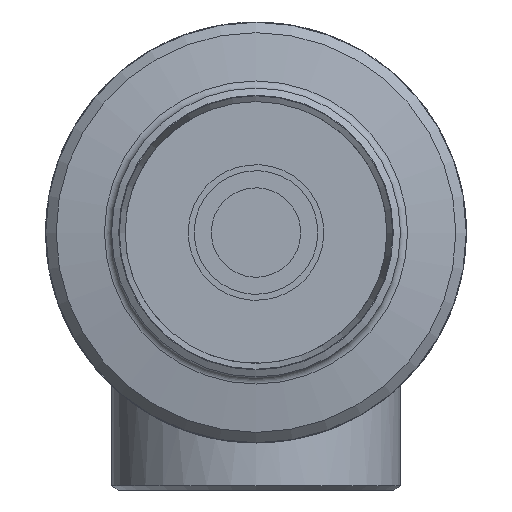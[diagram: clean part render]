
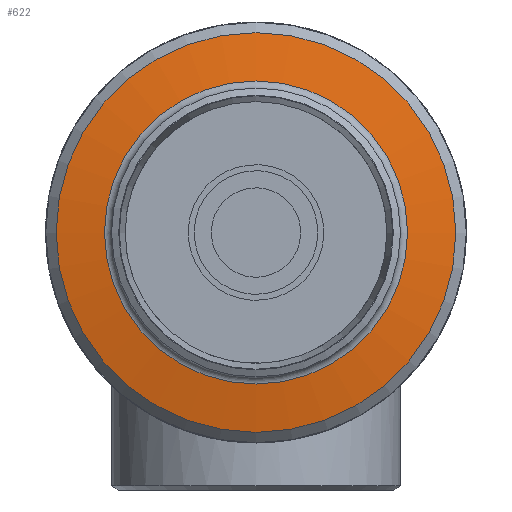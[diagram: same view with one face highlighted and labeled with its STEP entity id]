
A CAD part, front view. The second image highlights one B-rep face of the part: STEP entity #622.
In plain terms, the highlighted conical face has half-angle 80 degrees and reference radius 122.5 mm.
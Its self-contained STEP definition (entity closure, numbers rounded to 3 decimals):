
#540=CARTESIAN_POINT('',(0.0,-26.271,-88.282));
#541=VERTEX_POINT('',#540);
#542=CARTESIAN_POINT('',(0.0,-26.271,0.0));
#543=DIRECTION('',(0.0,-1.0,0.0));
#544=DIRECTION('',(0.0,0.0,-1.0));
#545=AXIS2_PLACEMENT_3D('',#542,#543,#544);
#546=CIRCLE('',#545,88.282);
#547=EDGE_CURVE('',#541,#541,#546,.F.);
#603=CARTESIAN_POINT('',(0.0,-20.238,0.0));
#604=DIRECTION('',(0.0,1.0,0.0));
#605=DIRECTION('',(0.0,0.0,1.0));
#606=AXIS2_PLACEMENT_3D('',#603,#604,#605);
#607=CONICAL_SURFACE('',#606,122.5,80.);
#608=CARTESIAN_POINT('',(0.0,-21.308,-116.43));
#609=VERTEX_POINT('',#608);
#610=CARTESIAN_POINT('',(0.0,-21.308,0.0));
#611=DIRECTION('',(0.0,-1.0,0.0));
#612=DIRECTION('',(0.0,0.0,-1.0));
#613=AXIS2_PLACEMENT_3D('',#610,#611,#612);
#614=CIRCLE('',#613,116.43);
#615=EDGE_CURVE('',#609,#609,#614,.T.);
#616=ORIENTED_EDGE('',*,*,#615,.T.);
#617=EDGE_LOOP('',(#616));
#618=FACE_OUTER_BOUND('',#617,.T.);
#619=ORIENTED_EDGE('',*,*,#547,.T.);
#620=EDGE_LOOP('',(#619));
#621=FACE_BOUND('',#620,.T.);
#622=ADVANCED_FACE('',(#618,#621),#607,.T.);
